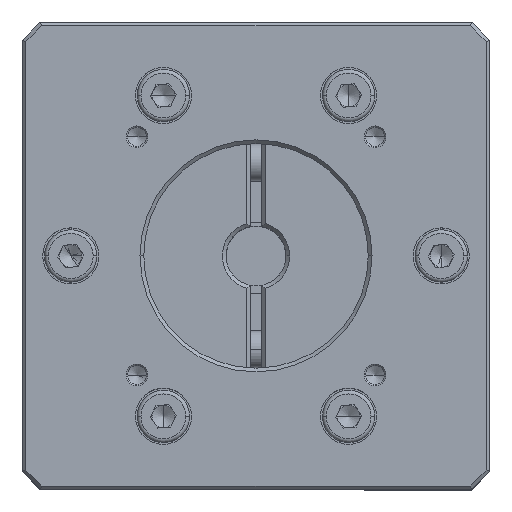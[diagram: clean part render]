
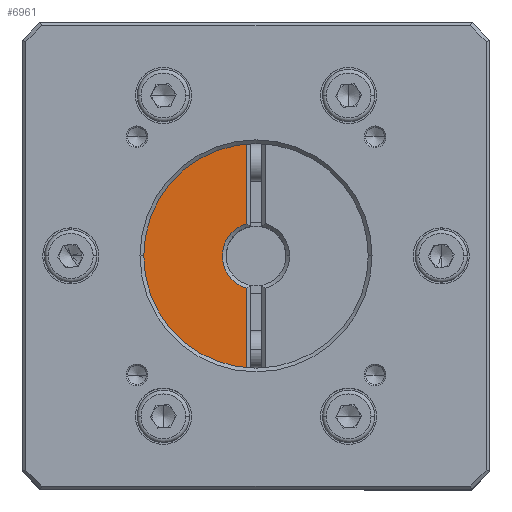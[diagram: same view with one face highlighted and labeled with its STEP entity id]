
A CAD part, top view. The second image highlights one B-rep face of the part: STEP entity #6961.
In plain terms, the highlighted planar face has unit normal (0, 0, 1).
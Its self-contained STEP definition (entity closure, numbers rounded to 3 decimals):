
#816 = EDGE_LOOP ( 'NONE', ( #110849, #45850, #84484, #60391, #82981 ) ) ;
#5560 = PLANE ( 'NONE',  #101704 ) ;
#6961 = ADVANCED_FACE ( 'NONE', ( #38563 ), #5560, .F. ) ;
#7019 = CARTESIAN_POINT ( 'NONE',  ( -30.578, 18.006, 2.87 ) ) ;
#8458 = DIRECTION ( 'NONE',  ( 0., 1., 0. ) ) ;
#11604 = CIRCLE ( 'NONE', #74163, 4.5 ) ;
#14413 = DIRECTION ( 'NONE',  ( 0., 0., 1. ) ) ;
#14949 = VECTOR ( 'NONE', #102283, 1000. ) ;
#18678 = CARTESIAN_POINT ( 'NONE',  ( -47.578, 18.006, 2.87 ) ) ;
#22497 = CARTESIAN_POINT ( 'NONE',  ( -30.578, 18.006, 2.87 ) ) ;
#28144 = VERTEX_POINT ( 'NONE', #71601 ) ;
#29686 = EDGE_CURVE ( 'NONE', #37469, #112348, #67500, .T. ) ;
#31744 = EDGE_CURVE ( 'NONE', #45561, #87958, #11604, .T. ) ;
#37469 = VERTEX_POINT ( 'NONE', #42113 ) ;
#38563 = FACE_OUTER_BOUND ( 'NONE', #816, .T. ) ;
#38615 = CIRCLE ( 'NONE', #110397, 17. ) ;
#41671 = CARTESIAN_POINT ( 'NONE',  ( -30.578, 35.506, 2.87 ) ) ;
#42113 = CARTESIAN_POINT ( 'NONE',  ( -31.828, 1.052, 2.87 ) ) ;
#45561 = VERTEX_POINT ( 'NONE', #53650 ) ;
#45850 = ORIENTED_EDGE ( 'NONE', *, *, #70903, .T. ) ;
#51523 = DIRECTION ( 'NONE',  ( -1., 0., 0. ) ) ;
#53650 = CARTESIAN_POINT ( 'NONE',  ( -31.828, 22.329, 2.87 ) ) ;
#58566 = CARTESIAN_POINT ( 'NONE',  ( -30.578, 18.006, 2.87 ) ) ;
#59277 = DIRECTION ( 'NONE',  ( -1., 0., 0. ) ) ;
#60391 = ORIENTED_EDGE ( 'NONE', *, *, #90468, .T. ) ;
#65471 = DIRECTION ( 'NONE',  ( 0., 0., -1. ) ) ;
#67500 = CIRCLE ( 'NONE', #89285, 17. ) ;
#70903 = EDGE_CURVE ( 'NONE', #37469, #87958, #79479, .T. ) ;
#71601 = CARTESIAN_POINT ( 'NONE',  ( -31.828, 34.96, 2.87 ) ) ;
#74163 = AXIS2_PLACEMENT_3D ( 'NONE', #58566, #14413, #76618 ) ;
#76618 = DIRECTION ( 'NONE',  ( 0., 1., 0. ) ) ;
#78585 = LINE ( 'NONE', #95162, #93670 ) ;
#79479 = LINE ( 'NONE', #110756, #14949 ) ;
#82981 = ORIENTED_EDGE ( 'NONE', *, *, #90767, .F. ) ;
#84484 = ORIENTED_EDGE ( 'NONE', *, *, #31744, .F. ) ;
#85790 = DIRECTION ( 'NONE',  ( 0., 0., -1. ) ) ;
#86082 = CARTESIAN_POINT ( 'NONE',  ( -31.828, 13.683, 2.87 ) ) ;
#87958 = VERTEX_POINT ( 'NONE', #86082 ) ;
#89285 = AXIS2_PLACEMENT_3D ( 'NONE', #7019, #103715, #51523 ) ;
#90468 = EDGE_CURVE ( 'NONE', #45561, #28144, #78585, .T. ) ;
#90767 = EDGE_CURVE ( 'NONE', #112348, #28144, #38615, .T. ) ;
#93670 = VECTOR ( 'NONE', #8458, 1000. ) ;
#95162 = CARTESIAN_POINT ( 'NONE',  ( -31.828, -1.18, 2.87 ) ) ;
#101704 = AXIS2_PLACEMENT_3D ( 'NONE', #41671, #85790, #59277 ) ;
#102283 = DIRECTION ( 'NONE',  ( 0., 1., 0. ) ) ;
#103715 = DIRECTION ( 'NONE',  ( 0., 0., -1. ) ) ;
#110397 = AXIS2_PLACEMENT_3D ( 'NONE', #22497, #65471, #110436 ) ;
#110436 = DIRECTION ( 'NONE',  ( -1., 0., 0. ) ) ;
#110756 = CARTESIAN_POINT ( 'NONE',  ( -31.828, -1.18, 2.87 ) ) ;
#110849 = ORIENTED_EDGE ( 'NONE', *, *, #29686, .F. ) ;
#112348 = VERTEX_POINT ( 'NONE', #18678 ) ;
